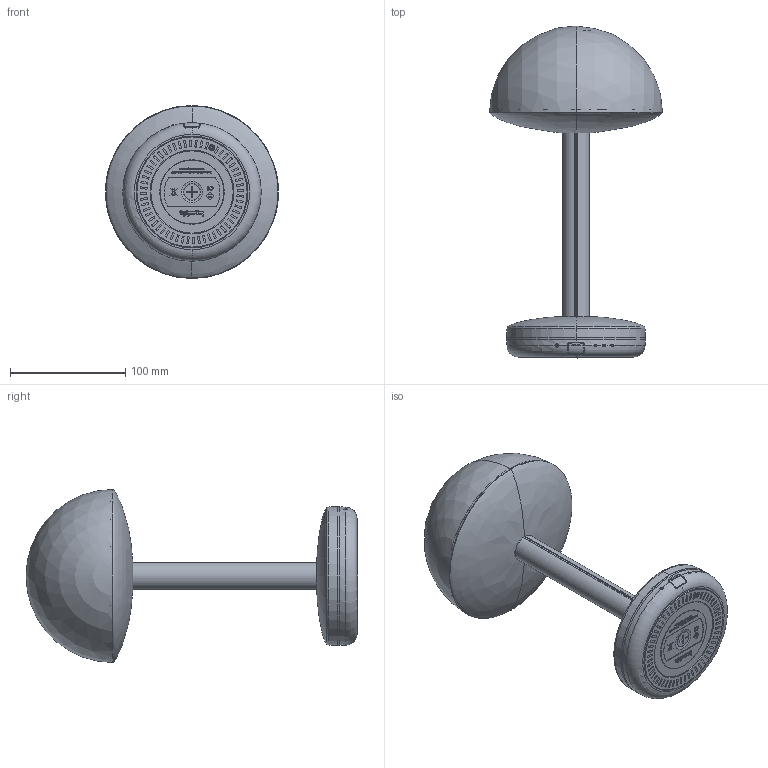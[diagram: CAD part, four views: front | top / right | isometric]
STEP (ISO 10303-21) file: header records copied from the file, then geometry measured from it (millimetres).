
FILE_DESCRIPTION (( 'STEP AP214' ), '1' );
FILE_NAME ('Bug-Frosted-Shade.STEP', '2023-07-11T11:18:59', ( '' ), ( '' ), 'SwSTEP 2.0', 'SolidWorks 2023', '' );
FILE_SCHEMA (( 'AUTOMOTIVE_DESIGN' ));
Length unit declared in the file: millimetre
Products named in the file (1): Bug-Frosted-Shade
Bounding box: 150.1 x 287.98 x 150.1 mm (x, y, z)
Volume: 175899.4 mm3; surface area: 216259 mm2
Topology: 12 solids, 15 shells, 2994 faces, 7748 edges, 4963 vertices
Faces by surface type: plane 1282, bspline 713, cylinder 670, torus 213, cone 90, sphere 26
Entity records: 147004 total; most frequent: CARTESIAN_POINT 44992, ORIENTED_EDGE 15456, DIRECTION 12519, EDGE_CURVE 7728, VERTEX_POINT 4957, LINE 4251, VECTOR 4251, AXIS2_PLACEMENT_3D 4134
